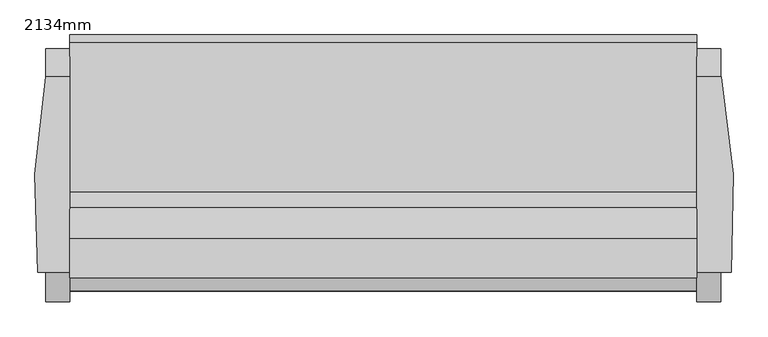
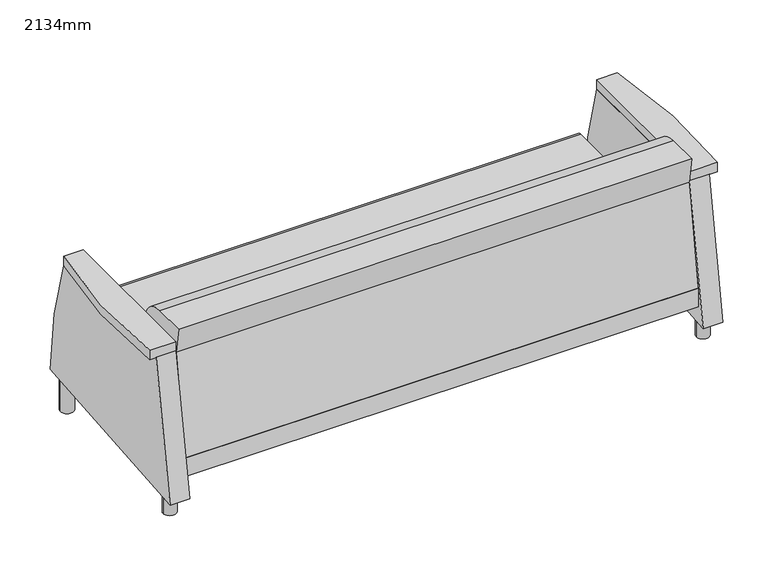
"""IFC4 building model written with IfcOpenShell, lengths in millimetres: furniture geometry, Pohovka_Poltrona-Pensi : 2134mm."""

from ifc_helpers import new_model, si_unit, point, frame, frame_2d, origin, origin_with_axes, place, context, project, spatial, polyline, circle_curve, trimmed, segment, composite_curve, outline, extrude, source, transform, mapped, element, save


def furniture_2134mm_7fff81ef(model_context):
    return source(origin(), model_context, "Body", "SweptSolid", [
        extrude(outline(composite_curve([segment(trimmed(circle_curve(frame_2d((-750.29375, 53.0901639)), 25.4), [point((-775.69375, 53.0901639))], [point((-724.89375, 53.0901639))], False, "CARTESIAN"), True, "CONTINUOUS"), segment(trimmed(circle_curve(frame_2d((-750.29375, 53.0901639)), 25.4), [point((-724.89375, 53.0901639))], [point((-775.69375, 53.0901639))], False, "CARTESIAN"), True, "CONTINUOUS")], self_intersect=False)), origin_with_axes(), (0.0, 0.0, 1.0), 148.43125),
        extrude(outline(composite_curve([segment(trimmed(circle_curve(frame_2d((-750.29375, -632.7098361)), 25.4), [point((-775.69375, -632.7098361))], [point((-724.89375, -632.7098361))], False, "CARTESIAN"), True, "CONTINUOUS"), segment(trimmed(circle_curve(frame_2d((-750.29375, -632.7098361)), 25.4), [point((-724.89375, -632.7098361))], [point((-775.69375, -632.7098361))], False, "CARTESIAN"), True, "CONTINUOUS")], self_intersect=False)), origin_with_axes(), (0.0, 0.0, 1.0), 148.43125),
        extrude(outline(composite_curve([segment(trimmed(circle_curve(frame_2d((1307.50625, -632.7098361)), 25.4), [point((1282.10625, -632.7098361))], [point((1332.90625, -632.7098361))], False, "CARTESIAN"), True, "CONTINUOUS"), segment(trimmed(circle_curve(frame_2d((1307.50625, -632.7098361)), 25.4), [point((1332.90625, -632.7098361))], [point((1282.10625, -632.7098361))], False, "CARTESIAN"), True, "CONTINUOUS")], self_intersect=False)), origin_with_axes(), (0.0, 0.0, 1.0), 148.43125),
        extrude(outline(composite_curve([segment(trimmed(circle_curve(frame_2d((1307.50625, 53.0901639)), 25.4), [point((1282.10625, 53.0901639))], [point((1332.90625, 53.0901639))], False, "CARTESIAN"), True, "CONTINUOUS"), segment(trimmed(circle_curve(frame_2d((1307.50625, 53.0901639)), 25.4), [point((1332.90625, 53.0901639))], [point((1282.10625, 53.0901639))], False, "CARTESIAN"), True, "CONTINUOUS")], self_intersect=False)), origin_with_axes(), (0.0, 0.0, 1.0), 148.43125),
        extrude(outline(polyline([(1269.40625, -668.3047863), (-712.19375, -668.3047863), (-712.19375, 93.6952137), (1269.40625, 93.6952137), (1269.40625, -668.3047863)])), frame((0.0, 0.0, 148.0509954), z_axis=(0.0, 0.0, 1.0), x_axis=(1.0, 0.0, 0.0)), (0.0, 0.0, 1.0), 76.2),
        extrude(outline(composite_curve([segment(trimmed(circle_curve(frame_2d((-1499.9783711, 99.5888442)), 1598.5418814), [point((9.3943348, 626.0203985))], [point((97.7900405, 149.3105671))], False, "CARTESIAN"), True, "CONTINUOUS"), segment(polyline([(97.7900405, 149.3105671), (-701.7619204, 79.3588346), (-608.6917937, 626.0203985), (9.3943348, 626.0203985)]), True, "CONTINUOUS")], self_intersect=False)), frame((-788.39375, 0.0, 0.0), z_axis=(1.0, 0.0, 0.0), x_axis=(0.0, 1.0, 0.0)), (0.0, 0.0, 1.0), 76.2),
        extrude(outline(composite_curve([segment(polyline([(-701.7619204, 79.3588346), (-608.6917937, 626.0203985), (9.3943348, 626.0203985)]), True, "CONTINUOUS"), segment(trimmed(circle_curve(frame_2d((-1499.9783711, 99.5888442)), 1598.5418814), [point((9.3943348, 626.0203985))], [point((97.7900405, 149.3105671))], False, "CARTESIAN"), True, "CONTINUOUS"), segment(polyline([(97.7900405, 149.3105671), (-701.7619204, 79.3588346)]), True, "CONTINUOUS")], self_intersect=False)), frame((1269.40625, 0.0, 0.0), z_axis=(1.0, 0.0, 0.0), x_axis=(0.0, 1.0, 0.0)), (0.0, 0.0, 1.0), 76.2),
        extrude(outline(composite_curve([segment(polyline([(141.9901639, 351.2509954), (141.9901639, 240.1259954)]), True, "CONTINUOUS"), segment(trimmed(circle_curve(frame_2d((126.1151639, 240.1259954)), 15.875), [point((141.9901639, 240.1259954))], [point((126.1151639, 224.2509954))], False, "CARTESIAN"), True, "CONTINUOUS"), segment(polyline([(126.1151639, 224.2509954), (-667.6541767, 224.2509954), (-609.5377828, 620.1719187), (-626.3344485, 726.0768662), (-502.2552854, 726.0768662)]), True, "CONTINUOUS"), segment(trimmed(circle_curve(frame_2d((-502.2552854, 624.4768662)), 101.6), [point((-502.2552854, 726.0768662))], [point((-402.1988177, 642.1195211))], False, "CARTESIAN"), True, "CONTINUOUS"), segment(polyline([(-402.1988177, 642.1195211), (-355.3895541, 376.6509954), (116.5901639, 376.6509954)]), True, "CONTINUOUS"), segment(trimmed(circle_curve(frame_2d((116.5901639, 351.2509954)), 25.4), [point((116.5901639, 376.6509954))], [point((141.9901639, 351.2509954))], False, "CARTESIAN"), True, "CONTINUOUS")], self_intersect=False)), frame((-712.19375, 0.0, 0.0), z_axis=(1.0, 0.0, 0.0), x_axis=(0.0, 1.0, 0.0)), (0.0, 0.0, 1.0), 1981.6),
        extrude(outline(composite_curve([segment(polyline([(-712.19375, 9.3943348), (-712.19375, -608.6917935), (-813.79375, -608.6917935)]), True, "CONTINUOUS"), segment(trimmed(circle_curve(frame_2d((1379.7527561, -389.2697363)), 2204.4936638), [point((-813.79375, -608.6917935))], [point((-788.39375, 9.3943348))], False, "CARTESIAN"), True, "CONTINUOUS"), segment(polyline([(-788.39375, 9.3943348), (-712.19375, 9.3943348)]), True, "CONTINUOUS")], self_intersect=False)), frame((0.0, 0.0, 626.0203985), z_axis=(0.0, 0.0, 1.0), x_axis=(1.0, 0.0, 0.0)), (0.0, 0.0, 1.0), 38.1),
        extrude(outline(composite_curve([segment(polyline([(1269.40625, 9.3943348), (1347.7273117, 9.3943348)]), True, "CONTINUOUS"), segment(trimmed(circle_curve(frame_2d((-821.5771494, -407.0270204)), 2208.9111775), [point((1347.7273117, 9.3943348))], [point((1378.0864453, -608.9395268))], False, "CARTESIAN"), True, "CONTINUOUS"), segment(polyline([(1378.0864453, -608.9395268), (1269.40625, -608.9395268), (1269.40625, 9.3943348)]), True, "CONTINUOUS")], self_intersect=False)), frame((0.0, 0.0, 626.0203985), z_axis=(0.0, 0.0, 1.0), x_axis=(1.0, 0.0, 0.0)), (0.0, 0.0, 1.0), 38.1),
    ])


if __name__ == "__main__":
    model = new_model("IFC4")
    model_context = context("Model", 3, world=origin())
    ifc_project = project(units=[si_unit("LENGTHUNIT", "METRE", prefix="MILLI")], contexts=[model_context])
    site = spatial("IfcSite", under=ifc_project)
    building = spatial("IfcBuilding", under=site)
    placement = place(None, origin())
    furniture_2134mm_shape = furniture_2134mm_7fff81ef(model_context)
    element("IfcFurniture", 1, ObjectType="Pohovka_Poltrona-Pensi : 2134mm", at=placement, inside=building, context=model_context, shape_type="MappedRepresentation", body=[
        mapped(furniture_2134mm_shape, transform((0.0, 0.0, 0.0), x_axis=(1.0, 0.0, 0.0), y_axis=(0.0, 1.0, 0.0), z_axis=(0.0, 0.0, 1.0))),
    ])
    save(model, "model.ifc")
